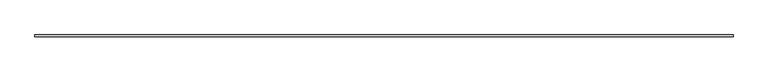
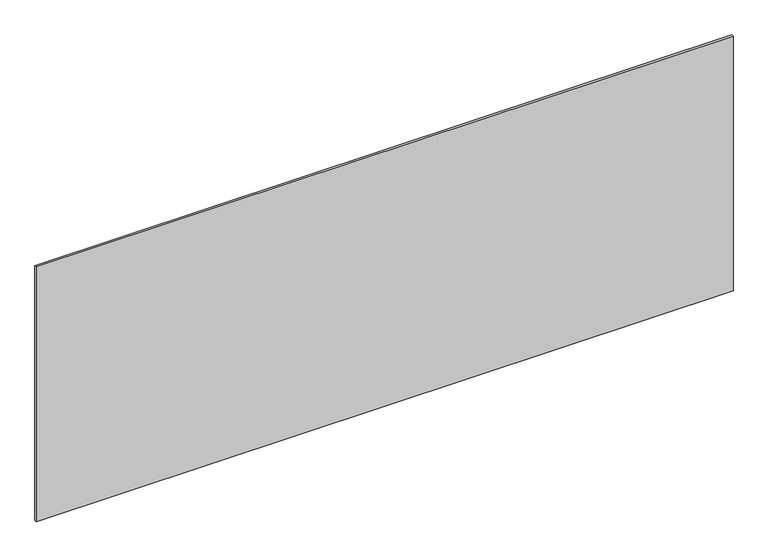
"""IFC4 building model written with IfcOpenShell, lengths in millimetres: plate geometry, システム パネル : 標準."""

from ifc_helpers import new_model, si_unit, origin, origin_with_axes, place, context, project, spatial, polyline, outline, extrude, source, transform, mapped, element, save


def plate_d82af523(model_context):
    return source(origin(), model_context, "Body", "SweptSolid", [
        extrude(outline(polyline([(1697.5, -5.0), (-1697.5, -5.0), (-1697.5, 5.0), (1697.5, 5.0), (1697.5, -5.0)])), origin_with_axes(), (0.0, 0.0, 1.0), 1312.0052046),
    ])


if __name__ == "__main__":
    model = new_model("IFC4")
    model_context = context("Model", 3, world=origin())
    ifc_project = project(units=[si_unit("LENGTHUNIT", "METRE", prefix="MILLI")], contexts=[model_context])
    site = spatial("IfcSite", under=ifc_project)
    building = spatial("IfcBuilding", under=site)
    placement = place(None, origin())
    plate_shape = plate_d82af523(model_context)
    element("IfcPlate", 1, ObjectType="システム パネル : 標準", at=placement, inside=building, context=model_context, shape_type="MappedRepresentation", body=[
        mapped(plate_shape, transform((0.0, 0.0, 0.0), x_axis=(1.0, 0.0, 0.0), y_axis=(0.0, 1.0, 0.0), z_axis=(0.0, 0.0, 1.0))),
    ])
    save(model, "model.ifc")
